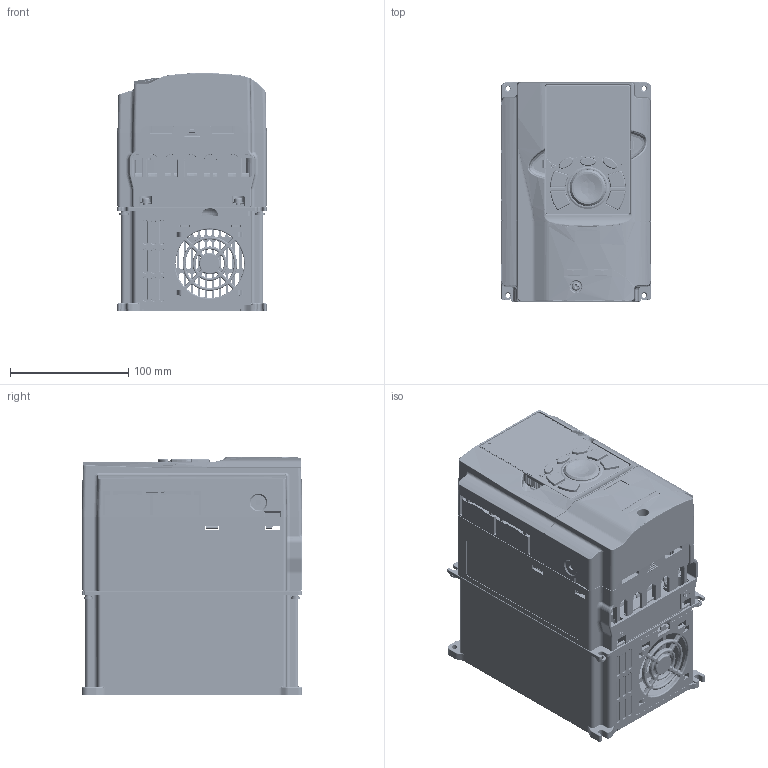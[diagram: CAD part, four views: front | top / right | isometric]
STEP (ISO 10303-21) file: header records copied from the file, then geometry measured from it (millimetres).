
FILE_DESCRIPTION((''),'2;1');
FILE_NAME('Open CASCADE Shape Model','2021-03-30T08:47:28',( 'Administrator'),(''),'Open CASCADE STEP processor 7.6', 'PRO/ENGINEER BY PARAMETRIC TECHNOLOGY CORPORATION, 2010100','Unknown' );
FILE_SCHEMA(('AUTOMOTIVE_DESIGN_CC2 { 1 2 10303 214 -1 1 5 4 }'));
Length unit declared in the file: millimetre
Products named in the file (42): GD350-5R5G-4_ASM; 80740160; 80740161; 80740161SY; 80740176; 80310508; 70610511; 70610512; 80880447; 80810117; 80810117SY; 80810118; KEY-LCD01-ZY-350_ASM; 80740163; 40810091_ASM; 80740162; 80880456; 80880456SY; 80740164; 80740164SY; KEY-LCD01-ZY-350-ES_ASM; 36002-00065; 39009-00082; 17003-02723_20180403_ASM; 17003-02723_20180403; GD350-5R5G-4-ES_ASM; 40850647_ASM; PW1735_DT1_ASM; PW1735_CP1_ASM; M3X16_TER_ASM; 88170506; 40800083_ASM; 80380478_ASM; S-M4-ZC; 80380477_ASM; JS_ASM; GD350-5R5G-4-FS_ASM; GB9074_4_M4X10; GB9074_4_M4X12; GB9074_4_M4X16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
Assembly tree (56 placements, depth 5):
  GD350-5R5G-4_ASM
    80740160
    80740161
    80740161SY
    80740176
    80310508
    70610511
    70610512
    80880447
    80810117
    80810117SY
    80810118
    KEY-LCD01-ZY-350_ASM
      80740163
      40810091_ASM
        80740162
        80880456
        80880456SY
      80740164
      80740164SY
      KEY-LCD01-ZY-350-ES_ASM
        36002-00065
        39009-00082
        17003-02723_20180403_ASM
          17003-02723_20180403
    GD350-5R5G-4-ES_ASM
      40850647_ASM
      PW1735_DT1_ASM
      PW1735_CP1_ASM
        M3X16_TER_ASM  x2
      88170506
      40800083_ASM
        80380478_ASM
          S-M4-ZC  x2
        80380477_ASM
          S-M4-ZC  x2
      JS_ASM
    GD350-5R5G-4-FS_ASM
      GB9074_4_M4X10  x6
      GB9074_4_M4X12  x4
      GB9074_4_M4X16
      GB845_76_M3X8_ZU  x4
      PM_M4X10_DCR
Bounding box: 126 x 186.09 x 200.93 mm (x, y, z)
Volume: 686176.6 mm3; surface area: 628538.8 mm2
Topology: 39 solids, 39 shells, 9148 faces, 24754 edges, 15889 vertices
Faces by surface type: plane 4482, cylinder 2903, torus 659, bspline 357, extrusion 337, cone 319, sphere 90, revolution 1
Entity records: 311945 total; most frequent: CARTESIAN_POINT 90527, ORIENTED_EDGE 47066, DIRECTION 44655, EDGE_CURVE 23533, VERTEX_POINT 15138, AXIS2_PLACEMENT_3D 14899, VECTOR 14856, LINE 14519
